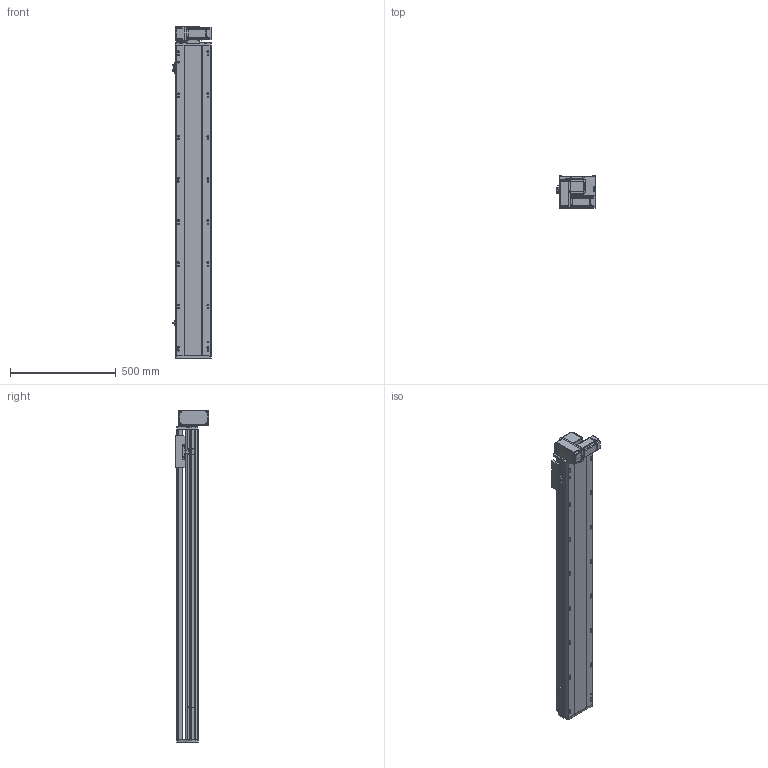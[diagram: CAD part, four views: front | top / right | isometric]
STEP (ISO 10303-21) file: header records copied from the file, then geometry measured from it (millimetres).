
FILE_DESCRIPTION (( 'STEP AP214' ), '1' );
FILE_NAME ('RTB17S-XX-1200-LM-M40-C4.STEP', '2025-12-11T06:27:43', ( '' ), ( '' ), 'SwSTEP 2.0', 'SolidWorks 2018', '' );
FILE_SCHEMA (( 'AUTOMOTIVE_DESIGN' ));
Length unit declared in the file: millimetre
Products named in the file (14): 400W侜督萇儂^RTB17S-XX-XX-LM-M40-C4; RMP17S-L-014-T20--々湍釱^RTB17S-LM-々湍釱蚾饜-400W_RTB17S-XX-XX-LM-M40-C4; RTB17-R-011菁釱^RTB17S-XX-XX-LM-M40-C4; RTB14-L-005P--轴承塑胶压盖^RTB17S-LM-皮带座装配-400W_RTB17S-XX-XX-LM-M40-C4; RTB17S-L-007奻裔^RTB17S-XX-XX-LM-M40-C4; RTB17S-LM-々湍釱蚾饜-400W^RTB17S-XX-XX-LM-M40-C4; RTB17S-XX-1200-LM-M40-C4; RTH13-BL-012覜茼え俋离^RTB17S-XX-XX-LM-M40-C4; RTB14-L-008-M20--萇儂啣^RTB17S-LM-々湍釱蚾饜-400W_RTB17S-XX-XX-LM-M40-C4; RTB17S-L-004佪裝蹟譫蟀諉釱^RTB17S-XX-XX-LM-M40-C4; RTB14-L-018P^RTB17S-LM-々湍釱蚾饜-400W_RTB17S-XX-XX-LM-M40-C4; RTB17S-L-001耜醱啣^RTB17S-XX-XX-LM-M40-C4; OMRON EE-SX672 传感器^RTB17S-XX-XX-LM-M40-C4; RTB14-L-017P^RTB17S-LM-々湍釱蚾饜-400W_RTB17S-XX-XX-LM-M40-C4
Assembly tree (16 placements, depth 3):
  RTB17S-XX-1200-LM-M40-C4
    RTB17-R-011菁釱^RTB17S-XX-XX-LM-M40-C4
    RTB17S-L-007奻裔^RTB17S-XX-XX-LM-M40-C4
    OMRON EE-SX672 传感器^RTB17S-XX-XX-LM-M40-C4  x3
    RTH13-BL-012覜茼え俋离^RTB17S-XX-XX-LM-M40-C4
    RTB17S-L-001耜醱啣^RTB17S-XX-XX-LM-M40-C4
    400W侜督萇儂^RTB17S-XX-XX-LM-M40-C4
    RTB17S-L-004佪裝蹟譫蟀諉釱^RTB17S-XX-XX-LM-M40-C4
    RTB17S-LM-々湍釱蚾饜-400W^RTB17S-XX-XX-LM-M40-C4
      RMP17S-L-014-T20--々湍釱^RTB17S-LM-々湍釱蚾饜-400W_RTB17S-XX-XX-LM-M40-C4
      RTB14-L-005P--轴承塑胶压盖^RTB17S-LM-皮带座装配-400W_RTB17S-XX-XX-LM-M40-C4
      RTB14-L-008-M20--萇儂啣^RTB17S-LM-々湍釱蚾饜-400W_RTB17S-XX-XX-LM-M40-C4
      RTB14-L-017P^RTB17S-LM-々湍釱蚾饜-400W_RTB17S-XX-XX-LM-M40-C4  x2
      RTB14-L-018P^RTB17S-LM-々湍釱蚾饜-400W_RTB17S-XX-XX-LM-M40-C4
Bounding box: 186 x 156.5 x 1572.5 mm (x, y, z)
Volume: 14007968.5 mm3; surface area: 1675023.8 mm2
Topology: 15 solids, 15 shells, 2221 faces, 6141 edges, 4005 vertices
Faces by surface type: plane 1070, cylinder 703, bspline 301, cone 139, torus 8
Entity records: 63401 total; most frequent: CARTESIAN_POINT 17746, ORIENTED_EDGE 9126, DIRECTION 8486, EDGE_CURVE 4563, VERTEX_POINT 2993, AXIS2_PLACEMENT_3D 2923, VECTOR 2640, LINE 2640
